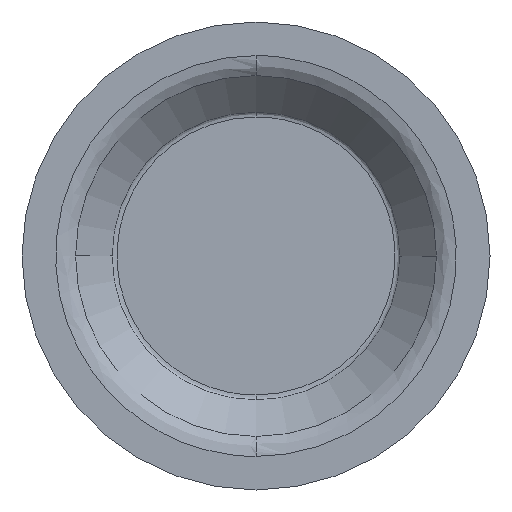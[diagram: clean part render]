
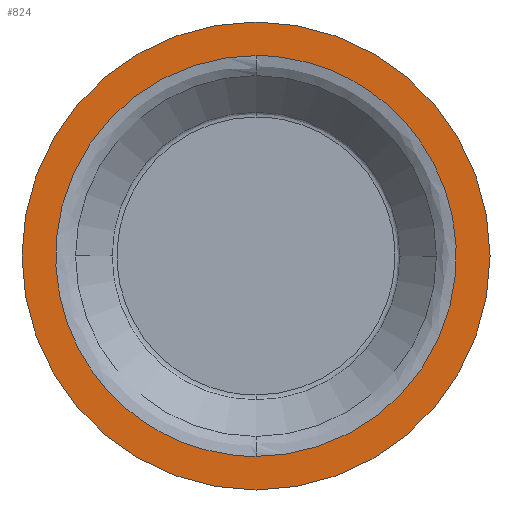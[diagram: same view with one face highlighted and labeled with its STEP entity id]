
A CAD part, front view. The second image highlights one B-rep face of the part: STEP entity #824.
In plain terms, the highlighted planar face has unit normal (0, -1, 0).
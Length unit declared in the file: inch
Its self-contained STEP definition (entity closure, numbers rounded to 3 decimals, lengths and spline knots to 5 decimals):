
#27 = AXIS2_PLACEMENT_3D ( 'NONE', #248, #456, #319 ) ;
#44 = CARTESIAN_POINT ( 'NONE',  ( 1.71226, -0.29, -0.85613 ) ) ;
#102 = CARTESIAN_POINT ( 'NONE',  ( 0., -0.29, 0.85613 ) ) ;
#104 = EDGE_CURVE ( 'NONE', #313, #914, #349, .T. ) ;
#109 = CARTESIAN_POINT ( 'NONE',  ( -1.71226, -0.29, 0.85613 ) ) ;
#114 = CARTESIAN_POINT ( 'NONE',  ( 0., -0.29, 0.85613 ) ) ;
#127 = CARTESIAN_POINT ( 'NONE',  ( 0., -0.29, 0. ) ) ;
#188 = CARTESIAN_POINT ( 'NONE',  ( 1.71226, -0.29, 0.85613 ) ) ;
#205 = CARTESIAN_POINT ( 'NONE',  ( 0., -0.29, 1. ) ) ;
#220 = ORIENTED_EDGE ( 'NONE', *, *, #542, .F. ) ;
#241 = DIRECTION ( 'NONE',  ( 0., 1., 0. ) ) ;
#248 = CARTESIAN_POINT ( 'NONE',  ( 0., -0.29, 0. ) ) ;
#258 = CARTESIAN_POINT ( 'NONE',  ( -1.71226, -0.29, -0.85613 ) ) ;
#278 = VERTEX_POINT ( 'NONE', #345 ) ;
#305 = AXIS2_PLACEMENT_3D ( 'NONE', #883, #241, #747 ) ;
#313 = VERTEX_POINT ( 'NONE', #205 ) ;
#317 = VERTEX_POINT ( 'NONE', #488 ) ;
#319 = DIRECTION ( 'NONE',  ( 0., 0., 1. ) ) ;
#322 = DIRECTION ( 'NONE',  ( 0., 0., 1. ) ) ;
#328 = ORIENTED_EDGE ( 'NONE', *, *, #829, .F. ) ;
#341 = DIRECTION ( 'NONE',  ( 0., 1., 0. ) ) ;
#345 = CARTESIAN_POINT ( 'NONE',  ( 0., -0.29, -0.85613 ) ) ;
#347 = ORIENTED_EDGE ( 'NONE', *, *, #843, .F. ) ;
#349 = CIRCLE ( 'NONE', #867, 1. ) ;
#404 = PLANE ( 'NONE',  #305 ) ;
#408 = EDGE_LOOP ( 'NONE', ( #545, #328 ) ) ;
#456 = DIRECTION ( 'NONE',  ( 0., 1., 0. ) ) ;
#472 = CARTESIAN_POINT ( 'NONE',  ( 0., -0.29, -0.85613 ) ) ;
#488 = CARTESIAN_POINT ( 'NONE',  ( 0., -0.29, 0.85613 ) ) ;
#535 = FACE_OUTER_BOUND ( 'NONE', #408, .T. ) ;
#538 =( BOUNDED_CURVE ( )  B_SPLINE_CURVE ( 3, ( #472, #44, #188, #102 ),
 .UNSPECIFIED., .F., .F. ) 
 B_SPLINE_CURVE_WITH_KNOTS ( ( 4, 4 ),
 ( 0., 1. ),
 .UNSPECIFIED. ) 
 CURVE ( )  GEOMETRIC_REPRESENTATION_ITEM ( )  RATIONAL_B_SPLINE_CURVE ( ( 1., 0.333, 0.333, 1. ) ) 
 REPRESENTATION_ITEM ( '' )  );
#542 = EDGE_CURVE ( 'NONE', #278, #317, #538, .T. ) ;
#545 = ORIENTED_EDGE ( 'NONE', *, *, #104, .F. ) ;
#567 =( BOUNDED_CURVE ( )  B_SPLINE_CURVE ( 3, ( #114, #109, #258, #683 ),
 .UNSPECIFIED., .F., .T. ) 
 B_SPLINE_CURVE_WITH_KNOTS ( ( 4, 4 ),
 ( 0., 1. ),
 .UNSPECIFIED. ) 
 CURVE ( )  GEOMETRIC_REPRESENTATION_ITEM ( )  RATIONAL_B_SPLINE_CURVE ( ( 1., 0.333, 0.333, 1. ) ) 
 REPRESENTATION_ITEM ( '' )  );
#631 = EDGE_LOOP ( 'NONE', ( #347, #220 ) ) ;
#672 = FACE_BOUND ( 'NONE', #631, .T. ) ;
#683 = CARTESIAN_POINT ( 'NONE',  ( 0., -0.29, -0.85613 ) ) ;
#722 = CARTESIAN_POINT ( 'NONE',  ( 0., -0.29, -1. ) ) ;
#747 = DIRECTION ( 'NONE',  ( 0., 0., 1. ) ) ;
#819 = CIRCLE ( 'NONE', #27, 1. ) ;
#824 = ADVANCED_FACE ( 'NONE', ( #672, #535 ), #404, .F. ) ;
#829 = EDGE_CURVE ( 'NONE', #914, #313, #819, .T. ) ;
#843 = EDGE_CURVE ( 'NONE', #317, #278, #567, .T. ) ;
#867 = AXIS2_PLACEMENT_3D ( 'NONE', #127, #341, #322 ) ;
#883 = CARTESIAN_POINT ( 'NONE',  ( 0.85613, -0.29, 0. ) ) ;
#914 = VERTEX_POINT ( 'NONE', #722 ) ;
